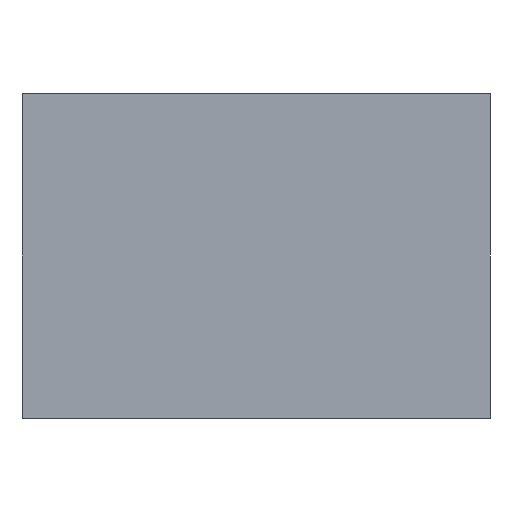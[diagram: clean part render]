
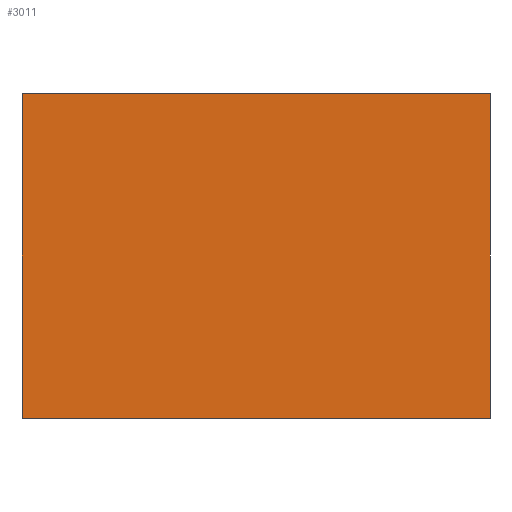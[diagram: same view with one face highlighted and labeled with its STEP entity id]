
A CAD part, left-side view. The second image highlights one B-rep face of the part: STEP entity #3011.
In plain terms, the highlighted planar face has unit normal (-1, 0, 0).
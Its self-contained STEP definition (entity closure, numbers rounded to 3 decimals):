
#72 = PLANE ( 'NONE',  #2076 ) ;
#141 = CARTESIAN_POINT ( 'NONE',  ( -182., 35.5, 49.3 ) ) ;
#817 = CARTESIAN_POINT ( 'NONE',  ( -182., 35.5, 49.3 ) ) ;
#845 = VERTEX_POINT ( 'NONE', #2384 ) ;
#847 = VECTOR ( 'NONE', #1435, 1000. ) ;
#1171 = DIRECTION ( 'NONE',  ( 0., 0., -1. ) ) ;
#1404 = LINE ( 'NONE', #817, #4515 ) ;
#1435 = DIRECTION ( 'NONE',  ( 0., -1., 0. ) ) ;
#1615 = DIRECTION ( 'NONE',  ( 0., -1., 0. ) ) ;
#1689 = VERTEX_POINT ( 'NONE', #4610 ) ;
#1946 = EDGE_CURVE ( 'NONE', #3639, #1689, #2267, .T. ) ;
#2076 = AXIS2_PLACEMENT_3D ( 'NONE', #2971, #2601, #4376 ) ;
#2216 = ORIENTED_EDGE ( 'NONE', *, *, #1946, .F. ) ;
#2264 = EDGE_CURVE ( 'NONE', #1689, #845, #4432, .T. ) ;
#2267 = LINE ( 'NONE', #3600, #847 ) ;
#2384 = CARTESIAN_POINT ( 'NONE',  ( -182., -35.5, 0. ) ) ;
#2388 = ORIENTED_EDGE ( 'NONE', *, *, #2762, .T. ) ;
#2438 = CARTESIAN_POINT ( 'NONE',  ( -182., -35.5, 49.3 ) ) ;
#2601 = DIRECTION ( 'NONE',  ( 1., 0., 0. ) ) ;
#2602 = ORIENTED_EDGE ( 'NONE', *, *, #2264, .F. ) ;
#2762 = EDGE_CURVE ( 'NONE', #4476, #845, #2967, .T. ) ;
#2912 = VECTOR ( 'NONE', #1615, 1000. ) ;
#2967 = LINE ( 'NONE', #3410, #2912 ) ;
#2971 = CARTESIAN_POINT ( 'NONE',  ( -182., -35.5, 49.3 ) ) ;
#3011 = ADVANCED_FACE ( 'NONE', ( #3463 ), #72, .F. ) ;
#3065 = ORIENTED_EDGE ( 'NONE', *, *, #3202, .T. ) ;
#3115 = CARTESIAN_POINT ( 'NONE',  ( -182., 35.5, 0. ) ) ;
#3177 = DIRECTION ( 'NONE',  ( 0., 0., -1. ) ) ;
#3202 = EDGE_CURVE ( 'NONE', #3639, #4476, #1404, .T. ) ;
#3410 = CARTESIAN_POINT ( 'NONE',  ( -182., -35.5, 0. ) ) ;
#3463 = FACE_OUTER_BOUND ( 'NONE', #4622, .T. ) ;
#3600 = CARTESIAN_POINT ( 'NONE',  ( -182., -35.5, 49.3 ) ) ;
#3639 = VERTEX_POINT ( 'NONE', #141 ) ;
#3984 = VECTOR ( 'NONE', #3177, 1000. ) ;
#4376 = DIRECTION ( 'NONE',  ( 0., 0., -1. ) ) ;
#4432 = LINE ( 'NONE', #2438, #3984 ) ;
#4476 = VERTEX_POINT ( 'NONE', #3115 ) ;
#4515 = VECTOR ( 'NONE', #1171, 1000. ) ;
#4610 = CARTESIAN_POINT ( 'NONE',  ( -182., -35.5, 49.3 ) ) ;
#4622 = EDGE_LOOP ( 'NONE', ( #2388, #2602, #2216, #3065 ) ) ;
